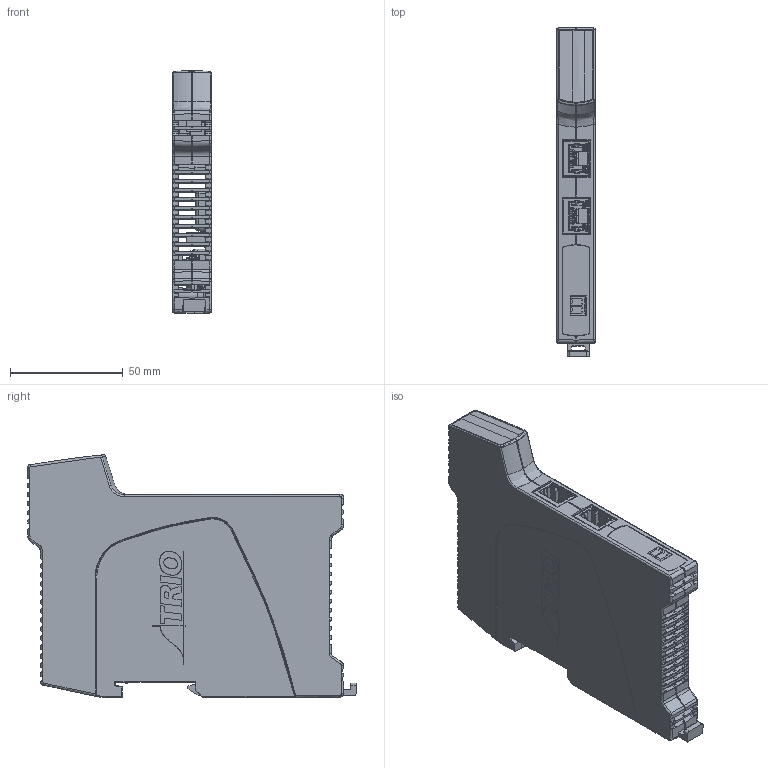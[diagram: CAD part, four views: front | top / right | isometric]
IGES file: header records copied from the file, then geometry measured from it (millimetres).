
Global section: file name: G:\Flexslice Coupler Assembly Solid\FLEXSLICE COUPLER MODULE ASSEMBLY.igs; native system: Rhinoceros ( May 22 2017 ); preprocessor: Trout Lake IGES 012 May 22 2017; author: Trio-MK; date: 171220.095714; units: millimetre
Bounding box: 17.19 x 145.69 x 107.66 mm (x, y, z)
Surface area: 86864.6 mm2 (no closed solid volume)
Topology: 0 solids, 0 shells, 6566 faces, 41806 edges, 41782 vertices
Faces by surface type: bspline 6566
